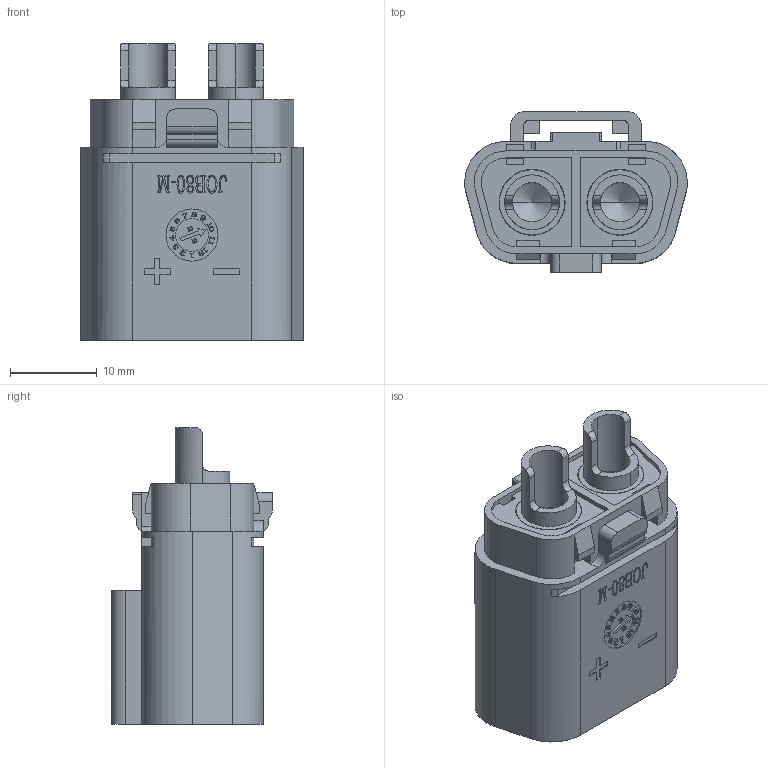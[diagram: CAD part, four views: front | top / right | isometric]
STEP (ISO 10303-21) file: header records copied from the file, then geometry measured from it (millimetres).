
FILE_DESCRIPTION((''),'2;1');
FILE_NAME('PAT02-10_1_1','2025-07-12T11:48:51',('henry'),(''),'CREO PARAMETRIC BY PTC INC, 2025102','CREO PARAMETRIC BY PTC INC, 2025102','');
FILE_SCHEMA(('CONFIG_CONTROL_DESIGN'));
Length unit declared in the file: millimetre
Products named in the file (1): PAT02-10_1_1
Bounding box: 25.6 x 18.52 x 34.1 mm (x, y, z)
Volume: 5276 mm3; surface area: 6623.3 mm2
Topology: 1 solids, 3 shells, 848 faces, 2446 edges, 1607 vertices
Faces by surface type: plane 430, extrusion 246, cylinder 88, bspline 40, cone 38, torus 4, revolution 2
Entity records: 31817 total; most frequent: CARTESIAN_POINT 10516, ORIENTED_EDGE 4880, DIRECTION 3544, EDGE_CURVE 2440, VERTEX_POINT 1607, VECTOR 1602, LINE 1356, AXIS2_PLACEMENT_3D 970
